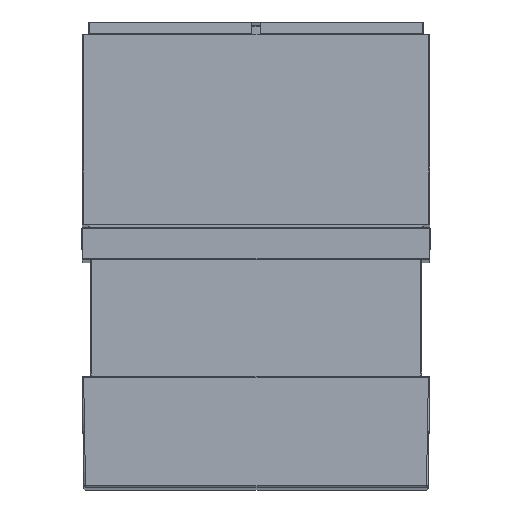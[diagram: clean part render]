
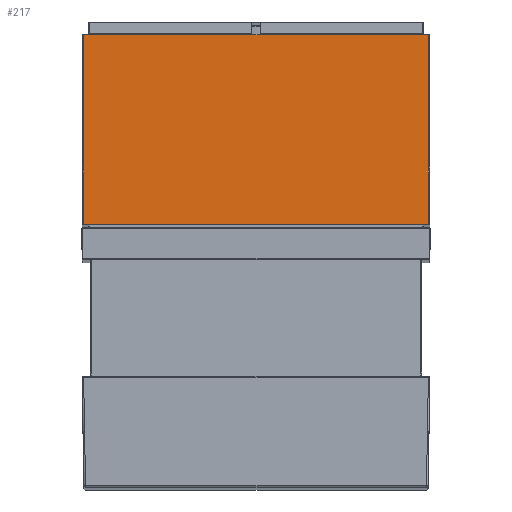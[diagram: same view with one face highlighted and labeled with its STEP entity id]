
A CAD part, left-side view. The second image highlights one B-rep face of the part: STEP entity #217.
In plain terms, the highlighted planar face has unit normal (-1, 0, 0.009).
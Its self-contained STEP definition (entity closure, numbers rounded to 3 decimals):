
#9=DIRECTION('',(0.009,0.,1.));
#10=VECTOR('',#9,60.);
#11=CARTESIAN_POINT('',(-0.512,0.5,
-59.527));
#12=LINE('',#11,#10);
#33=DIRECTION('',(-0.009,0.,-1.));
#34=VECTOR('',#33,60.);
#35=CARTESIAN_POINT('',(0.002,109.5,0.471));
#36=LINE('',#35,#34);
#41=DIRECTION('',(0.,-1.,0.));
#42=VECTOR('',#41,109.);
#43=CARTESIAN_POINT('',(0.002,109.5,0.471));
#44=LINE('',#43,#42);
#50=DIRECTION('',(0.,-1.,0.));
#51=VECTOR('',#50,109.);
#52=CARTESIAN_POINT('',(-0.512,109.5,-59.527));
#53=LINE('',#52,#51);
#113=CARTESIAN_POINT('',(0.002,0.5,
0.471));
#114=VERTEX_POINT('',#113);
#115=CARTESIAN_POINT('',(-0.512,0.5,
-59.527));
#116=VERTEX_POINT('',#115);
#117=CARTESIAN_POINT('',(0.002,109.5,0.471));
#119=VERTEX_POINT('',#117);
#127=CARTESIAN_POINT('',(-0.512,109.5,-59.527));
#128=VERTEX_POINT('',#127);
#205=CARTESIAN_POINT('',(0.002,0.,
0.471));
#206=DIRECTION('',(-1.,0.,0.009));
#207=DIRECTION('',(0.,1.,0.));
#208=AXIS2_PLACEMENT_3D('',#205,#206,#207);
#209=PLANE('',#208);
#210=ORIENTED_EDGE('',*,*,#196,.F.);
#211=ORIENTED_EDGE('',*,*,#185,.T.);
#212=ORIENTED_EDGE('',*,*,#163,.F.);
#214=ORIENTED_EDGE('',*,*,#213,.F.);
#215=EDGE_LOOP('',(#210,#211,#212,#214));
#216=FACE_OUTER_BOUND('',#215,.F.);
#217=ADVANCED_FACE('',(#216),#209,.T.);
#163=EDGE_CURVE('',#116,#114,#12,.T.);
#185=EDGE_CURVE('',#119,#114,#44,.T.);
#196=EDGE_CURVE('',#119,#128,#36,.T.);
#213=EDGE_CURVE('',#128,#116,#53,.T.);
